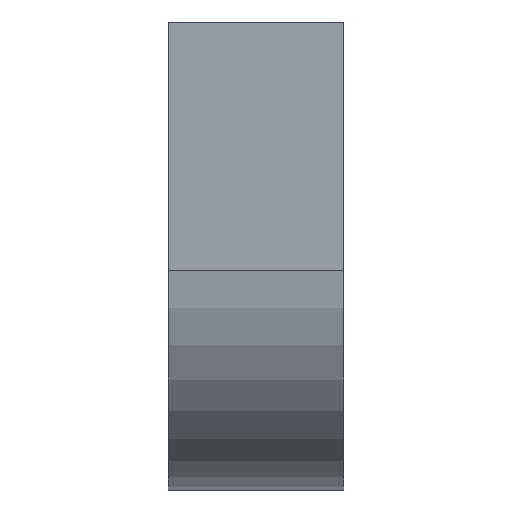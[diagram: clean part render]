
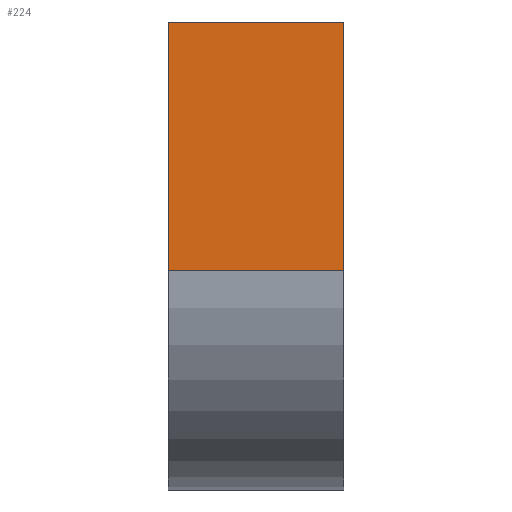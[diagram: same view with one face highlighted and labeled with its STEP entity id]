
A CAD part, front view. The second image highlights one B-rep face of the part: STEP entity #224.
In plain terms, the highlighted planar face has unit normal (0, -1, 0).
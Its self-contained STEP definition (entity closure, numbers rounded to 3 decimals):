
#53 = DIRECTION ( 'NONE',  ( -1., 0., 0. ) ) ;
#69 = ORIENTED_EDGE ( 'NONE', *, *, #144, .T. ) ;
#119 = EDGE_LOOP ( 'NONE', ( #193, #552, #142, #69 ) ) ;
#142 = ORIENTED_EDGE ( 'NONE', *, *, #1023, .F. ) ;
#144 = EDGE_CURVE ( 'NONE', #781, #987, #1429, .T. ) ;
#193 = ORIENTED_EDGE ( 'NONE', *, *, #1118, .T. ) ;
#211 = DIRECTION ( 'NONE',  ( 0., 0., -1. ) ) ;
#224 = ADVANCED_FACE ( 'NONE', ( #1393 ), #1523, .F. ) ;
#229 = DIRECTION ( 'NONE',  ( 0., 0., -1. ) ) ;
#239 = VERTEX_POINT ( 'NONE', #241 ) ;
#241 = CARTESIAN_POINT ( 'NONE',  ( 50., -101., -141. ) ) ;
#346 = DIRECTION ( 'NONE',  ( 0., 1., 0. ) ) ;
#408 = DIRECTION ( 'NONE',  ( -1., 0., 0. ) ) ;
#538 = VECTOR ( 'NONE', #229, 1000. ) ;
#550 = CARTESIAN_POINT ( 'NONE',  ( -50., -101., 0. ) ) ;
#552 = ORIENTED_EDGE ( 'NONE', *, *, #1678, .F. ) ;
#591 = LINE ( 'NONE', #1252, #890 ) ;
#659 = CARTESIAN_POINT ( 'NONE',  ( 50., -101., 0. ) ) ;
#680 = VERTEX_POINT ( 'NONE', #793 ) ;
#735 = DIRECTION ( 'NONE',  ( 0., 0., 1. ) ) ;
#781 = VERTEX_POINT ( 'NONE', #659 ) ;
#793 = CARTESIAN_POINT ( 'NONE',  ( -50., -101., -141. ) ) ;
#875 = LINE ( 'NONE', #1641, #538 ) ;
#890 = VECTOR ( 'NONE', #211, 1000. ) ;
#930 = LINE ( 'NONE', #1081, #1244 ) ;
#987 = VERTEX_POINT ( 'NONE', #550 ) ;
#1023 = EDGE_CURVE ( 'NONE', #781, #239, #591, .T. ) ;
#1081 = CARTESIAN_POINT ( 'NONE',  ( 50., -101., -141. ) ) ;
#1118 = EDGE_CURVE ( 'NONE', #987, #680, #875, .T. ) ;
#1244 = VECTOR ( 'NONE', #53, 1000. ) ;
#1252 = CARTESIAN_POINT ( 'NONE',  ( 50., -101., -141. ) ) ;
#1393 = FACE_OUTER_BOUND ( 'NONE', #119, .T. ) ;
#1410 = CARTESIAN_POINT ( 'NONE',  ( 50., -101., -141. ) ) ;
#1429 = LINE ( 'NONE', #1577, #1467 ) ;
#1467 = VECTOR ( 'NONE', #408, 1000. ) ;
#1523 = PLANE ( 'NONE',  #1583 ) ;
#1577 = CARTESIAN_POINT ( 'NONE',  ( 50., -101., 0. ) ) ;
#1583 = AXIS2_PLACEMENT_3D ( 'NONE', #1410, #346, #735 ) ;
#1641 = CARTESIAN_POINT ( 'NONE',  ( -50., -101., -141. ) ) ;
#1678 = EDGE_CURVE ( 'NONE', #239, #680, #930, .T. ) ;
